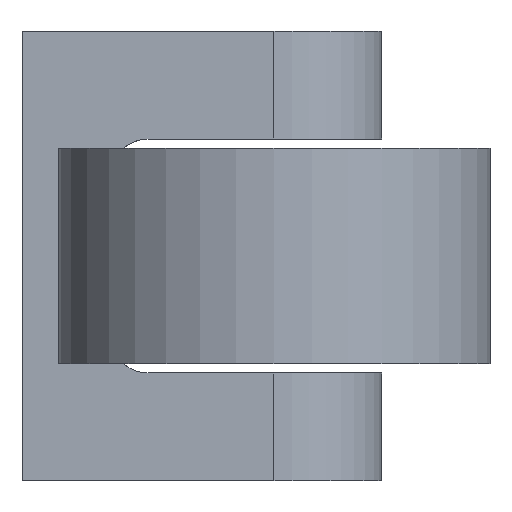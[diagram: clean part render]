
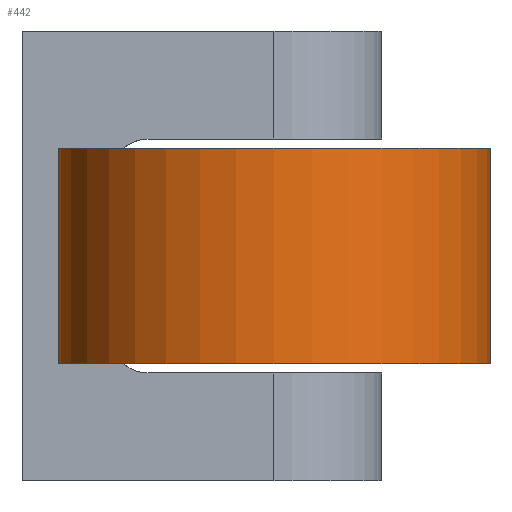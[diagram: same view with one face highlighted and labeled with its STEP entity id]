
A CAD part, left-side view. The second image highlights one B-rep face of the part: STEP entity #442.
In plain terms, the highlighted cylindrical face has radius 38.1 mm (diameter 76.2 mm), a full revolution.
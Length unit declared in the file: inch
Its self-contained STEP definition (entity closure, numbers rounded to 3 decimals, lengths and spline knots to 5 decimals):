
#315=CARTESIAN_POINT('',(-3.85,1.49248,0.5));
#316=VERTEX_POINT('',#315);
#326=CARTESIAN_POINT('',(-3.85,-1.49248,0.5));
#327=VERTEX_POINT('',#326);
#328=CARTESIAN_POINT('',(-4.0,0.0,0.5));
#329=DIRECTION('',(0.0,0.0,1.0));
#330=DIRECTION('',(-1.0,0.0,0.0));
#331=AXIS2_PLACEMENT_3D('',#328,#329,#330);
#332=CIRCLE('',#331,1.5);
#333=EDGE_CURVE('',#327,#316,#332,.T.);
#389=CARTESIAN_POINT('',(-4.0,0.0,0.75));
#390=DIRECTION('',(0.0,0.0,-1.0));
#391=DIRECTION('',(-1.0,0.0,0.0));
#392=AXIS2_PLACEMENT_3D('',#389,#390,#391);
#393=CYLINDRICAL_SURFACE('',#392,1.5);
#394=CARTESIAN_POINT('',(-5.5,0.0,0.75));
#395=VERTEX_POINT('',#394);
#396=CARTESIAN_POINT('',(-4.0,0.0,0.75));
#397=DIRECTION('',(0.0,0.0,-1.0));
#398=DIRECTION('',(-1.0,0.0,0.0));
#399=AXIS2_PLACEMENT_3D('',#396,#397,#398);
#400=CIRCLE('',#399,1.5);
#401=EDGE_CURVE('',#395,#395,#400,.T.);
#402=ORIENTED_EDGE('',*,*,#401,.T.);
#403=EDGE_LOOP('',(#402));
#404=FACE_OUTER_BOUND('',#403,.T.);
#405=CARTESIAN_POINT('',(-5.5,0.0,-0.75));
#406=VERTEX_POINT('',#405);
#407=CARTESIAN_POINT('',(-4.0,0.0,-0.75));
#408=DIRECTION('',(0.0,0.0,1.0));
#409=DIRECTION('',(-1.0,0.0,0.0));
#410=AXIS2_PLACEMENT_3D('',#407,#408,#409);
#411=CIRCLE('',#410,1.5);
#412=EDGE_CURVE('',#406,#406,#411,.T.);
#413=ORIENTED_EDGE('',*,*,#412,.T.);
#414=EDGE_LOOP('',(#413));
#415=FACE_BOUND('',#414,.T.);
#416=CARTESIAN_POINT('',(-3.85,1.49248,-0.5));
#417=VERTEX_POINT('',#416);
#418=CARTESIAN_POINT('',(-3.85,-1.49248,-0.5));
#419=VERTEX_POINT('',#418);
#420=CARTESIAN_POINT('',(-4.0,0.0,-0.5));
#421=DIRECTION('',(0.0,0.0,-1.0));
#422=DIRECTION('',(-1.0,0.0,0.0));
#423=AXIS2_PLACEMENT_3D('',#420,#421,#422);
#424=CIRCLE('',#423,1.5);
#425=EDGE_CURVE('',#417,#419,#424,.T.);
#426=ORIENTED_EDGE('',*,*,#425,.T.);
#427=CARTESIAN_POINT('',(-3.85,-1.49248,-0.5));
#428=DIRECTION('',(0.0,0.0,1.0));
#429=VECTOR('',#428,1.0);
#430=LINE('',#427,#429);
#431=EDGE_CURVE('',#419,#327,#430,.T.);
#432=ORIENTED_EDGE('',*,*,#431,.T.);
#433=ORIENTED_EDGE('',*,*,#333,.T.);
#434=CARTESIAN_POINT('',(-3.85,1.49248,0.5));
#435=DIRECTION('',(0.0,0.0,-1.0));
#436=VECTOR('',#435,1.0);
#437=LINE('',#434,#436);
#438=EDGE_CURVE('',#316,#417,#437,.T.);
#439=ORIENTED_EDGE('',*,*,#438,.T.);
#440=EDGE_LOOP('',(#426,#432,#433,#439));
#441=FACE_BOUND('',#440,.T.);
#442=ADVANCED_FACE('',(#404,#415,#441),#393,.T.);
